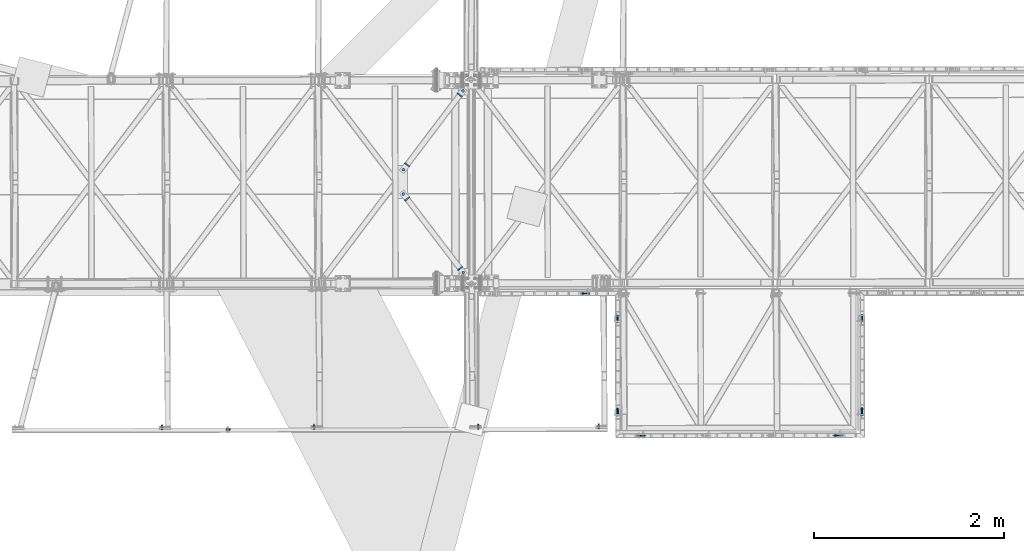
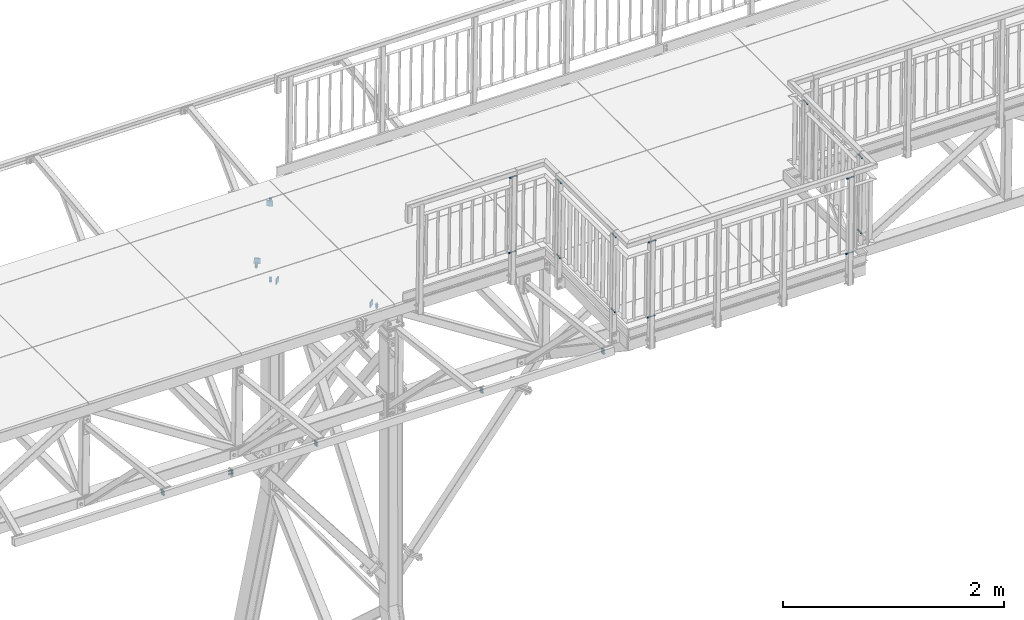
# One storey, part 164 of 169: 22 mechanical fasteners, 4 discrete accessories, 8 elements without a shape of their own.
"""IFC2X3 building model written with IfcOpenShell, lengths in millimetres."""

import ifcopenshell
import ifcopenshell.guid

model = None  # the IFC model being written
_history = None  # IfcOwnerHistory: only IFC2X3 demands one
_inside = {}  # id of a spatial element -> (the spatial element, [elements in it])
_under = {}  # id of a project, library or spatial element -> (it, [spatial elements below it])
_declared = {}  # id of a project -> (the project, [libraries it declares])
_typed = {}  # id of a type object -> (the type object, [elements of that type])
_made_of = {}  # id of a material, layer set ... -> (it, [elements and type objects made of it])


def new_model(schema):
    """Start an empty IFC model of exactly this schema.

    Asked for "IFC4X3", IfcOpenShell would pick the latest addendum, in which some entities
    have other attributes; the version numbers below select the first issue.
    IFC2X3 requires an IfcOwnerHistory on every rooted entity: one is made here for all.
    """
    global model, _history
    if schema == "IFC4X3":
        model = ifcopenshell.file(schema_version=(4, 3, 0, 0))
    else:
        model = ifcopenshell.file(schema=schema)
    _inside.clear()
    _under.clear()
    _declared.clear()
    _typed.clear()
    _made_of.clear()
    _history = None
    if model.schema == "IFC2X3":
        org = make("IfcOrganization", Name="unknown")
        user = make(
            "IfcPersonAndOrganization",
            ThePerson=make("IfcPerson", FamilyName="unknown"),
            TheOrganization=org,
        )
        app = make(
            "IfcApplication",
            ApplicationDeveloper=org,
            Version="unknown",
            ApplicationFullName="unknown",
            ApplicationIdentifier="unknown",
        )
        _history = make(
            "IfcOwnerHistory",
            OwningUser=user,
            OwningApplication=app,
            ChangeAction="ADDED",
            CreationDate=0,
        )
    return model


def make(cls, **values):
    """One entity of the class cls with the attributes given. An attribute that is None is left unset."""
    return model.create_entity(
        cls, **{name: value for name, value in values.items() if value is not None}
    )


def rooted(cls, **values):
    """An entity with a GlobalId (a new one), such as an element, a storey or a relation."""
    return make(cls, GlobalId=ifcopenshell.guid.new(), OwnerHistory=_history, **values)


def si_unit(unit_type, name, prefix=None):
    """IfcSIUnit, for example si_unit("LENGTHUNIT", "METRE", prefix="MILLI")."""
    return make("IfcSIUnit", UnitType=unit_type, Prefix=prefix, Name=name)


def assignment(units):
    """IfcUnitAssignment: the units of a project."""
    return None if units is None else make("IfcUnitAssignment", Units=units)


def point(xyz):
    """IfcCartesianPoint."""
    return None if xyz is None else make("IfcCartesianPoint", Coordinates=xyz)


def direction(xyz):
    """IfcDirection."""
    return None if xyz is None else make("IfcDirection", DirectionRatios=xyz)


def frame(location, z_axis=None, x_axis=None):
    """IfcAxis2Placement3D, a coordinate frame: its origin and axes. An axis left out is left unset."""
    return make(
        "IfcAxis2Placement3D",
        Location=point(location),
        Axis=direction(z_axis),
        RefDirection=direction(x_axis),
    )


def frame_2d(location, x_axis=None):
    """IfcAxis2Placement2D, a coordinate frame in the plane: its origin and x axis."""
    return make(
        "IfcAxis2Placement2D", Location=point(location), RefDirection=direction(x_axis)
    )


def origin_with_axes():
    """The frame at (0, 0, 0) with the z axis (0, 0, 1) and the x axis (1, 0, 0) written out."""
    return frame((0.0, 0.0, 0.0), z_axis=(0.0, 0.0, 1.0), x_axis=(1.0, 0.0, 0.0))


def origin_2d_with_axis():
    """The frame at (0, 0) in the plane with the x axis (1, 0) written out."""
    return frame_2d((0.0, 0.0), x_axis=(1.0, 0.0))


def place(relative_to, where):
    """IfcLocalPlacement: puts the frame where relative to a parent placement (None: the world)."""
    return make(
        "IfcLocalPlacement", PlacementRelTo=relative_to, RelativePlacement=where
    )


def context(
    kind, dimensions, precision=None, world=None, true_north=None, identifier=None
):
    """IfcGeometricRepresentationContext, for example the 3D "Model" context."""
    return make(
        "IfcGeometricRepresentationContext",
        ContextIdentifier=identifier,
        ContextType=kind,
        CoordinateSpaceDimension=dimensions,
        Precision=precision,
        WorldCoordinateSystem=world,
        TrueNorth=true_north,
    )


def subcontext(parent, identifier, kind, view, scale=None):
    """IfcGeometricRepresentationSubContext, for example "Body" below "Model"."""
    return make(
        "IfcGeometricRepresentationSubContext",
        ContextIdentifier=identifier,
        ContextType=kind,
        ParentContext=parent,
        TargetScale=scale,
        TargetView=view,
    )


def project(units=None, contexts=None):
    """IfcProject with its units and contexts."""
    return rooted(
        "IfcProject",
        Name="project",
        RepresentationContexts=contexts,
        UnitsInContext=assignment(units),
    )


def spatial(cls, under=None, at=None, **own):
    """A site, building, storey or space (cls), placed at a placement, below another one or the project."""
    s = rooted(cls, ObjectPlacement=at, **own)
    if under is not None:
        _under.setdefault(under.id(), (under, []))[1].append(s)
    return s


def polyline(points):
    """IfcPolyline through the points."""
    return make("IfcPolyline", Points=[point(p) for p in points])


def circle_curve(where, radius):
    """IfcCircle in the frame where."""
    return make("IfcCircle", Position=where, Radius=radius)


def parameter(value):
    """IfcParameterValue: where a trimmed curve begins or ends, as a parameter of its basis curve."""
    return model.create_entity("IfcParameterValue", value)


def trimmed(basis, trim1, trim2, sense, master):
    """IfcTrimmedCurve: the piece of a basis curve between two trims."""
    return make(
        "IfcTrimmedCurve",
        BasisCurve=basis,
        Trim1=trim1,
        Trim2=trim2,
        SenseAgreement=sense,
        MasterRepresentation=master,
    )


def segment(curve, same_sense, transition):
    """IfcCompositeCurveSegment."""
    return make(
        "IfcCompositeCurveSegment",
        Transition=transition,
        SameSense=same_sense,
        ParentCurve=curve,
    )


def composite_curve(segments, self_intersect=None):
    """IfcCompositeCurve: segments joined end to end."""
    return make("IfcCompositeCurve", Segments=segments, SelfIntersect=self_intersect)


def profile(cls, at=None, kind="AREA", **sizes):
    """A parametric profile (cls). Its sizes go by their IFC names, for example OverallWidth=200.0."""
    return make(cls, ProfileType=kind, Position=at, **sizes)


def circle(**sizes):
    """IfcCircleProfileDef."""
    return profile("IfcCircleProfileDef", **sizes)


def outline(outer, holes=None, kind="AREA"):
    """IfcArbitraryClosedProfileDef: a profile drawn as a closed curve; with holes, ...WithVoids."""
    if holes is None:
        return make("IfcArbitraryClosedProfileDef", ProfileType=kind, OuterCurve=outer)
    return make(
        "IfcArbitraryProfileDefWithVoids",
        ProfileType=kind,
        OuterCurve=outer,
        InnerCurves=holes,
    )


def extrude(swept, where, along, depth):
    """IfcExtrudedAreaSolid: the profile swept, set in the frame where, extruded along a direction by depth."""
    return make(
        "IfcExtrudedAreaSolid",
        SweptArea=swept,
        Position=where,
        ExtrudedDirection=direction(along),
        Depth=depth,
    )


def shape(context_of_items, identifier, shape_type, items):
    """IfcShapeRepresentation: the items that make up one representation, for example the "Body"."""
    return make(
        "IfcShapeRepresentation",
        ContextOfItems=context_of_items,
        RepresentationIdentifier=identifier,
        RepresentationType=shape_type,
        Items=items,
    )


def source(mapping_origin, context_of_items, identifier, shape_type, items):
    """IfcRepresentationMap: a shape defined once, which mapped items show again and again."""
    return make(
        "IfcRepresentationMap",
        MappingOrigin=mapping_origin,
        MappedRepresentation=shape(context_of_items, identifier, shape_type, items),
    )


def transform(
    local_origin,
    x_axis=None,
    y_axis=None,
    z_axis=None,
    scale=None,
    scale2=None,
    scale3=None,
    uniform=True,
):
    """IfcCartesianTransformationOperator3D, or its non-uniform kind. x_axis, y_axis, z_axis: its Axis1, 2, 3."""
    if uniform:
        return make(
            "IfcCartesianTransformationOperator3D",
            Axis1=direction(x_axis),
            Axis2=direction(y_axis),
            LocalOrigin=point(local_origin),
            Scale=scale,
            Axis3=direction(z_axis),
        )
    return make(
        "IfcCartesianTransformationOperator3DnonUniform",
        Axis1=direction(x_axis),
        Axis2=direction(y_axis),
        LocalOrigin=point(local_origin),
        Scale=scale,
        Axis3=direction(z_axis),
        Scale2=scale2,
        Scale3=scale3,
    )


def mapped(mapping_source, mapping_target):
    """IfcMappedItem: shows the shape of a source again, moved by a transform."""
    return make(
        "IfcMappedItem", MappingSource=mapping_source, MappingTarget=mapping_target
    )


def material(Name=None, Category=None):
    """IfcMaterial."""
    return make("IfcMaterial", Name=Name, Category=Category)


def made_of(thing, what):
    """Note that an element or type object is made of a material, layer set ...; save() writes the relation."""
    if what is not None:
        _made_of.setdefault(what.id(), (what, []))[1].append(thing)
    return thing


def type_object(cls, material=None, **own):
    """A type object (cls), such as IfcWallType, which elements share."""
    return made_of(rooted(cls, **own), material)


def element(
    cls,
    number,
    at=None,
    inside=None,
    cuts=None,
    type_object=None,
    material=None,
    context=None,
    identifier="Body",
    shape_type=None,
    held_by="IfcProductDefinitionShape",
    body=None,
    shapes=None,
    **own,
):
    """One element of the class cls, such as IfcWall. Its Tag is "e" and its number.

    at: its placement. inside: the storey or other place that contains it. cuts: it is an
    opening in that element (IfcRelVoidsElement). A single representation is given by context,
    identifier, shape_type and body (its items); several are given by shapes. held_by: the class
    of the entity that holds the representations. save() writes the other relations.
    """
    e = rooted(cls, Tag="e%d" % number, ObjectPlacement=at, **own)
    if body is not None:
        shapes = [shape(context, identifier, shape_type, body)]
    if shapes is not None:
        e.Representation = make(held_by, Representations=shapes)
    if inside is not None:
        _inside.setdefault(inside.id(), (inside, []))[1].append(e)
    if cuts is not None:
        rooted(
            "IfcRelVoidsElement", RelatingBuildingElement=cuts, RelatedOpeningElement=e
        )
    if type_object is not None:
        _typed.setdefault(type_object.id(), (type_object, []))[1].append(e)
    return made_of(e, material)


def aggregate(whole, parts):
    """IfcRelAggregates: a whole, such as a stair, and the parts it consists of."""
    return rooted("IfcRelAggregates", RelatingObject=whole, RelatedObjects=parts)


def save(model, path):
    """Write the relations noted so far, then the file.

    IfcRelAggregates (storeys below a building ...), IfcRelContainedInSpatialStructure (elements
    in a storey), IfcRelDefinesByType, IfcRelAssociatesMaterial and IfcRelDeclares: one each for
    every whole, place, type object, material and project.
    """
    for whole, parts in _under.values():
        aggregate(whole, parts)
    for where, things in _inside.values():
        rooted(
            "IfcRelContainedInSpatialStructure",
            RelatedElements=things,
            RelatingStructure=where,
        )
    for kind, things in _typed.values():
        rooted("IfcRelDefinesByType", RelatedObjects=things, RelatingType=kind)
    for what, things in _made_of.values():
        rooted("IfcRelAssociatesMaterial", RelatedObjects=things, RelatingMaterial=what)
    for by, libraries in _declared.values():
        rooted("IfcRelDeclares", RelatingContext=by, RelatedDefinitions=libraries)
    model.write(path)


model = new_model("IFC2X3")

# Units and contexts
model_context = context("Model", 3, precision=1e-05, world=origin_with_axes())
body_context = subcontext(model_context, "Body", "Model", "MODEL_VIEW")
ifc_project = project(units=[si_unit("LENGTHUNIT", "METRE", prefix="MILLI"), si_unit("AREAUNIT", "SQUARE_METRE"), si_unit("VOLUMEUNIT", "CUBIC_METRE"), si_unit("MASSUNIT", "GRAM", prefix="KILO"), si_unit("TIMEUNIT", "SECOND"), si_unit("PLANEANGLEUNIT", "RADIAN"), si_unit("SOLIDANGLEUNIT", "STERADIAN"), si_unit("THERMODYNAMICTEMPERATUREUNIT", "DEGREE_CELSIUS"), si_unit("LUMINOUSINTENSITYUNIT", "LUMEN")], contexts=[model_context])

# Site, building, storey
site_placement = place(None, origin_with_axes())
site = spatial("IfcSite", under=ifc_project, at=site_placement, Name="Undefined", CompositionType="ELEMENT")
building_placement = place(site_placement, origin_with_axes())
building = spatial("IfcBuilding", under=site, at=building_placement, Name="Undefined", CompositionType="ELEMENT")
storey_placement = place(building_placement, origin_with_axes())
storey = spatial("IfcBuildingStorey", under=building, at=storey_placement, Name="Undefined", CompositionType="ELEMENT", Elevation=0.0)

# Assembly, mechanical fastener
assembly_1_placement = place(storey_placement, origin_with_axes())
assembly_1 = element("IfcElementAssembly", 1, at=assembly_1_placement, inside=storey, Name="Steel Assembly", AssemblyPlace="NOTDEFINED", PredefinedType="RIGID_FRAME")
ifc_material_1 = material(Name="Undefined")
discrete_accessory_type_1 = type_object("IfcDiscreteAccessoryType", Name="Bolt assembly")
shared_shape_1 = source(origin_with_axes(), body_context, "Body", "SweptSolid", [
    extrude(circle(Radius=7.5, at=origin_2d_with_axis()), frame((0.0, -9.90000000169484, 0.0), z_axis=(0.0, 1.0, 0.0), x_axis=(1.0, 0.0, 0.0)), (0.0, 0.0, 1.0), 10.0),
    extrude(circle(Radius=7.5, at=origin_2d_with_axis()), frame((0.0, -0.100000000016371, 0.0), z_axis=(0.0, 1.0, 0.0), x_axis=(1.0, 0.0, 0.0)), (0.0, 0.0, 1.0), 10.1),
    extrude(outline(polyline([(10.39230484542, 0.0), (5.19615242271, 9.00000000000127), (-5.19615242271, 9.00000000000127), (-10.39230484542, 0.0), (-5.19615242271, -9.00000000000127), (5.19615242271, -9.00000000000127), (10.39230484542, 0.0)])), frame((0.0, -20.0000000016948, 0.0), z_axis=(0.0, 1.0, 0.0), x_axis=(1.0, 0.0, 0.0)), (0.0, 0.0, 1.0), 7.5),
    extrude(circle(Radius=6.0, at=origin_2d_with_axis()), frame((0.0, -12.5000000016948, 0.0), z_axis=(0.0, 1.0, 0.0), x_axis=(1.0, 0.0, 0.0)), (0.0, 0.0, 1.0), 40.0),
    extrude(circle(Radius=12.0, at=origin_2d_with_axis()), frame((0.0, -12.5000000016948, 0.0), z_axis=(0.0, 1.0, 0.0), x_axis=(1.0, 0.0, 0.0)), (0.0, 0.0, 1.0), 2.5),
    extrude(circle(Radius=12.0, at=origin_2d_with_axis()), frame((0.0, 9.99999999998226, 0.0), z_axis=(0.0, 1.0, 0.0), x_axis=(1.0, 0.0, 0.0)), (0.0, 0.0, 1.0), 2.5),
    extrude(outline(polyline([(10.96965511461, 0.0), (5.484827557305, 9.50000000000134), (-5.484827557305, 9.50000000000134), (-10.96965511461, 0.0), (-5.484827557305, -9.50000000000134), (5.484827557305, -9.50000000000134), (10.96965511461, 0.0)])), frame((0.0, 12.4999999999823, 0.0), z_axis=(0.0, 1.0, 0.0), x_axis=(1.0, 0.0, 0.0)), (0.0, 0.0, 1.0), 10.0),
])
mechanical_fastener_1_placement = place(assembly_1_placement, frame((3556.32930027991, -1428.97701817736, 13941.7508409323), z_axis=(0.00334696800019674, -0.99305658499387, 0.117590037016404), x_axis=(-0.0124056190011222, -0.117622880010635, -0.992980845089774)))
mechanical_fastener_1 = element("IfcMechanicalFastener", 2, at=mechanical_fastener_1_placement, type_object=discrete_accessory_type_1, material=ifc_material_1, Name="Bolt assembly", NominalDiameter=12.0, NominalLength=40.0, context=body_context, shape_type="MappedRepresentation", body=[
    mapped(shared_shape_1, transform((25.0000000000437, -9.09494701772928e-13, -9.99999999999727))),
    mapped(shared_shape_1, transform((55.0000000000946, -9.09494701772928e-13, -9.99999999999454))),
])
aggregate(assembly_1, [mechanical_fastener_1])

# Assembly, discrete accessories
assembly_2_placement = place(storey_placement, origin_with_axes())
assembly_2 = element("IfcElementAssembly", 3, at=assembly_2_placement, inside=storey, Name="Steel Assembly", AssemblyPlace="NOTDEFINED", PredefinedType="RIGID_FRAME")
ifc_material_2 = material(Name="STEEL/S235")
discrete_accessory_type_2 = type_object("IfcDiscreteAccessoryType", Name="BLACHA")
discrete_accessory_1_placement = place(assembly_2_placement, frame((6000.50302998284, 2100.36412309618, 13847.9313782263), z_axis=(-0.603048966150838, -0.797667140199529, 0.00768621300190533), x_axis=(0.012713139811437, 2.3750999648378e-05, 0.999919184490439)))
discrete_accessory_1 = element("IfcDiscreteAccessory", 4, at=discrete_accessory_1_placement, type_object=discrete_accessory_type_2, material=ifc_material_2, Name="BLACHA", ObjectType="BL10*60", context=body_context, shape_type="SweptSolid", body=[
    extrude(outline(polyline([(-1.63709046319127e-10, 30.0000000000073), (60.0000000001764, 30.0000000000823), (60.0000000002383, -29.9999999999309), (1.63709046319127e-10, -30.0000000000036), (-1.63709046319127e-10, 30.0000000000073)])), frame((-1.81898926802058e-12, -1.18000176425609e-16, -5.00000000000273), z_axis=(0.0, 0.0, 1.0), x_axis=(1.0, 0.0, 0.0)), (0.0, 0.0, 1.0), 10.0),
])
discrete_accessory_2_placement = place(assembly_2_placement, frame((5444.76188841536, 1365.27216216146, 13855.0146252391), z_axis=(0.603048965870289, 0.797667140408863, -0.00768621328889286), x_axis=(0.012713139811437, 2.3750999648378e-05, 0.999919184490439)))
discrete_accessory_2 = element("IfcDiscreteAccessory", 5, at=discrete_accessory_2_placement, type_object=discrete_accessory_type_2, material=ifc_material_2, Name="BLACHA", ObjectType="BL10*60", context=body_context, shape_type="SweptSolid", body=[
    extrude(outline(polyline([(1.63709046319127e-10, -30.0000000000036), (-1.63709046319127e-10, 30.0000000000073), (60.0000000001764, 30.0000000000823), (60.0000000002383, -29.9999999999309), (1.63709046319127e-10, -30.0000000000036)])), frame((-1.81898926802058e-12, -1.18000176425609e-16, -5.00000000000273), z_axis=(0.0, 0.0, 1.0), x_axis=(1.0, 0.0, 0.0)), (0.0, 0.0, 1.0), 10.0),
])

assembly_3_placement = place(storey_placement, origin_with_axes())
assembly_3 = element("IfcElementAssembly", 6, at=assembly_3_placement, inside=storey, Name="Steel Assembly", AssemblyPlace="NOTDEFINED", PredefinedType="RIGID_FRAME")
discrete_accessory_3_placement = place(assembly_3_placement, frame((5445.43361702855, 1005.06865640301, 13855.0146408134), z_axis=(0.606019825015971, -0.795412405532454, -0.00768614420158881), x_axis=(0.012713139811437, 2.3750999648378e-05, 0.999919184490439)))
discrete_accessory_3 = element("IfcDiscreteAccessory", 7, at=discrete_accessory_3_placement, type_object=discrete_accessory_type_2, material=ifc_material_2, Name="BLACHA", ObjectType="BL10*60", context=body_context, shape_type="SweptSolid", body=[
    extrude(outline(polyline([(-1.63709046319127e-10, 30.0000000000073), (60.0000000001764, 30.0000000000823), (60.0000000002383, -29.9999999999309), (1.63709046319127e-10, -30.0000000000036), (-1.63709046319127e-10, 30.0000000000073)])), frame((-1.81898926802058e-12, -1.18000176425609e-16, -5.00000000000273), z_axis=(0.0, 0.0, 1.0), x_axis=(1.0, 0.0, 0.0)), (0.0, 0.0, 1.0), 10.0),
])
discrete_accessory_4_placement = place(assembly_3_placement, frame((6003.91271283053, 272.054350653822, 13847.931455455), z_axis=(-0.606019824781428, 0.795412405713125, 0.00768614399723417), x_axis=(0.012713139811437, 2.3750999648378e-05, 0.999919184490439)))
discrete_accessory_4 = element("IfcDiscreteAccessory", 8, at=discrete_accessory_4_placement, type_object=discrete_accessory_type_2, material=ifc_material_2, Name="BLACHA", ObjectType="BL10*60", context=body_context, shape_type="SweptSolid", body=[
    extrude(outline(polyline([(1.63709046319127e-10, -30.0000000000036), (-1.63709046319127e-10, 30.0000000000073), (60.0000000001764, 30.0000000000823), (60.0000000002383, -29.9999999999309), (1.63709046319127e-10, -30.0000000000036)])), frame((-1.81898926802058e-12, -1.18000176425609e-16, -5.00000000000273), z_axis=(0.0, 0.0, 1.0), x_axis=(1.0, 0.0, 0.0)), (0.0, 0.0, 1.0), 10.0),
])

# Assembly, mechanical fastener
assembly_4_placement = place(storey_placement, origin_with_axes())
assembly_4 = element("IfcElementAssembly", 9, at=assembly_4_placement, inside=storey, Name="Steel Assembly", AssemblyPlace="NOTDEFINED", PredefinedType="RIGID_FRAME")
shared_shape_2 = source(origin_with_axes(), body_context, "Body", "SweptSolid", [
    extrude(circle(Radius=7.5, at=origin_2d_with_axis()), frame((0.0, -10.3999999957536, 0.0), z_axis=(0.0, 1.0, 0.0), x_axis=(1.0, 0.0, 0.0)), (0.0, 0.0, 1.0), 10.0),
    extrude(outline(composite_curve([segment(polyline([(7.5, 7.5), (7.5, -7.5)]), True, "CONTINUOUS"), segment(trimmed(circle_curve(frame_2d((0.0, -7.5), x_axis=(1.0, 0.0)), 7.5), [parameter(0.0)], [parameter(3.14159265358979)], False, "PARAMETER"), True, "CONTINUOUS"), segment(polyline([(-7.5, -7.5), (-7.5, 7.5)]), True, "CONTINUOUS"), segment(trimmed(circle_curve(frame_2d((0.0, 7.5), x_axis=(-1.0, 0.0)), 7.5), [parameter(0.0)], [parameter(3.14159265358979)], False, "PARAMETER"), True, "DISCONTINUOUS")], self_intersect=False)), frame((0.0, 0.400000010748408, 0.0), z_axis=(0.0, 1.0, 0.0), x_axis=(1.0, 0.0, 0.0)), (0.0, 0.0, 1.0), 10.1),
    extrude(outline(polyline([(10.39230484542, 0.0), (5.19615242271, 9.00000000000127), (-5.19615242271, 9.00000000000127), (-10.39230484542, 0.0), (-5.19615242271, -9.00000000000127), (5.19615242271, -9.00000000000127), (10.39230484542, 0.0)])), frame((0.0, -20.9999999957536, 0.0), z_axis=(0.0, 1.0, 0.0), x_axis=(1.0, 0.0, 0.0)), (0.0, 0.0, 1.0), 7.5),
    extrude(circle(Radius=6.0, at=origin_2d_with_axis()), frame((0.0, -13.4999999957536, 0.0), z_axis=(0.0, 1.0, 0.0), x_axis=(1.0, 0.0, 0.0)), (0.0, 0.0, 1.0), 45.0),
    extrude(circle(Radius=12.0, at=origin_2d_with_axis()), frame((0.0, -13.4999999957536, 0.0), z_axis=(0.0, 1.0, 0.0), x_axis=(1.0, 0.0, 0.0)), (0.0, 0.0, 1.0), 3.0),
    extrude(circle(Radius=12.0, at=origin_2d_with_axis()), frame((0.0, 10.500000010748, 0.0), z_axis=(0.0, 1.0, 0.0), x_axis=(1.0, 0.0, 0.0)), (0.0, 0.0, 1.0), 3.0),
    extrude(outline(polyline([(10.96965511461, 0.0), (5.484827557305, 9.50000000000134), (-5.484827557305, 9.50000000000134), (-10.96965511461, 0.0), (-5.484827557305, -9.50000000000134), (5.484827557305, -9.50000000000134), (10.96965511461, 0.0)])), frame((0.0, 13.500000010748, 0.0), z_axis=(0.0, 1.0, 0.0), x_axis=(1.0, 0.0, 0.0)), (0.0, 0.0, 1.0), 10.0),
])
mechanical_fastener_2_placement = place(assembly_4_placement, frame((2922.6622331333, -1405.74242971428, 13896.6183931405), z_axis=(-0.999917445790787, -0.00186469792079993, 0.0127131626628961), x_axis=(0.0124058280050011, 0.117560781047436, 0.992988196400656)))
mechanical_fastener_2 = element("IfcMechanicalFastener", 10, at=mechanical_fastener_2_placement, type_object=discrete_accessory_type_1, material=ifc_material_1, Name="Bolt assembly", NominalDiameter=12.0, NominalLength=45.0, context=body_context, shape_type="MappedRepresentation", body=[
    mapped(shared_shape_2, transform((-4.9999999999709, -9.09494701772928e-12, 60.0000000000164))),
    mapped(shared_shape_2, transform((24.9999999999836, -3.54702933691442e-11, 60.0000000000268))),
])
aggregate(assembly_4, [mechanical_fastener_2])

# Assembly, mechanical fasteners
assembly_5_placement = place(storey_placement, origin_with_axes())
assembly_5 = element("IfcElementAssembly", 11, at=assembly_5_placement, inside=storey, Name="Steel Assembly", AssemblyPlace="NOTDEFINED", PredefinedType="RIGID_FRAME")
shared_shape_3 = source(origin_with_axes(), body_context, "Body", "SweptSolid", [
    extrude(circle(Radius=6.5, at=origin_2d_with_axis()), frame((0.0, 4.89999999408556, 0.0), z_axis=(0.0, 1.0, 0.0), x_axis=(1.0, 0.0, 0.0)), (0.0, 0.0, 1.0), 50.1),
    extrude(circle(Radius=6.5, at=origin_2d_with_axis()), frame((0.0, 0.100000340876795, 0.0), z_axis=(0.0, 1.0, 0.0), x_axis=(1.0, 0.0, 0.0)), (0.0, 0.0, 1.0), 5.0),
    extrude(outline(polyline([(8.66025403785, 0.0), (4.330127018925, 7.50000000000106), (-4.330127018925, 7.50000000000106), (-8.66025403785, 0.0), (-4.330127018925, -7.50000000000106), (4.330127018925, -7.50000000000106), (8.66025403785, 0.0)])), frame((0.0, -8.39999975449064, 0.0), z_axis=(0.0, 1.0, 0.0), x_axis=(1.0, 0.0, 0.0)), (0.0, 0.0, 1.0), 6.4),
    extrude(circle(Radius=5.0, at=origin_2d_with_axis()), frame((0.0, -1.9999996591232, 0.0), z_axis=(0.0, 1.0, 0.0), x_axis=(1.0, 0.0, 0.0)), (0.0, 0.0, 1.0), 75.0),
    extrude(circle(Radius=10.0, at=origin_2d_with_axis()), frame((0.0, -1.9999996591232, 0.0), z_axis=(0.0, 1.0, 0.0), x_axis=(1.0, 0.0, 0.0)), (0.0, 0.0, 1.0), 2.0),
    extrude(circle(Radius=10.0, at=origin_2d_with_axis()), frame((0.0, 54.9999999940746, 0.0), z_axis=(0.0, 1.0, 0.0), x_axis=(1.0, 0.0, 0.0)), (0.0, 0.0, 1.0), 2.0),
    extrude(outline(polyline([(9.81495457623, 0.0), (4.907477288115, 8.5000000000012), (-4.907477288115, 8.5000000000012), (-9.81495457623, 0.0), (-4.907477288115, -8.5000000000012), (4.907477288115, -8.5000000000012), (9.81495457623, 0.0)])), frame((0.0, 56.999999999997, 0.0), z_axis=(0.0, 1.0, 0.0), x_axis=(1.0, 0.0, 0.0)), (0.0, 0.0, 1.0), 8.0),
])
mechanical_fastener_3_placement = place(assembly_5_placement, frame((7669.40624709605, -1270.68591546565, 14966.8849856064), z_axis=(0.012713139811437, 2.3750999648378e-05, 0.999919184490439), x_axis=(0.9999174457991, 0.00186469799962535, -0.0127131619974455)))
mechanical_fastener_3 = element("IfcMechanicalFastener", 12, at=mechanical_fastener_3_placement, type_object=discrete_accessory_type_1, material=ifc_material_1, Name="Bolt assembly", NominalDiameter=10.0, NominalLength=75.0, context=body_context, shape_type="MappedRepresentation", body=[
    mapped(shared_shape_3, transform((0.0, 0.0, 0.0))),
])
mechanical_fastener_4_placement = place(assembly_5_placement, frame((7658.90519377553, -1270.70553347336, 14140.9517392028), z_axis=(0.012713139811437, 2.3750999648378e-05, 0.999919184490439), x_axis=(0.9999174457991, 0.00186469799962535, -0.0127131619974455)))
mechanical_fastener_4 = element("IfcMechanicalFastener", 13, at=mechanical_fastener_4_placement, type_object=discrete_accessory_type_1, material=ifc_material_1, Name="Bolt assembly", NominalDiameter=10.0, NominalLength=75.0, context=body_context, shape_type="MappedRepresentation", body=[
    mapped(shared_shape_3, transform((0.0, 0.0, 0.0))),
])
mechanical_fastener_5_placement = place(assembly_5_placement, frame((7889.79835696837, -1490.27530067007, 14964.088099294), z_axis=(-0.012713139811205, -2.37511238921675e-05, -0.999919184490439), x_axis=(-0.0018648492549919, 0.999998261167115, -4.2996762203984e-08)))
mechanical_fastener_5 = element("IfcMechanicalFastener", 14, at=mechanical_fastener_5_placement, type_object=discrete_accessory_type_1, material=ifc_material_1, Name="Bolt assembly", NominalDiameter=10.0, NominalLength=75.0, context=body_context, shape_type="MappedRepresentation", body=[
    mapped(shared_shape_3, transform((0.0, 0.0, 0.0))),
])
mechanical_fastener_6_placement = place(assembly_5_placement, frame((7879.29730420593, -1490.29491899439, 14138.1548528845), z_axis=(-0.012713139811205, -2.37511238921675e-05, -0.999919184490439), x_axis=(-0.0018648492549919, 0.999998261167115, -4.2996762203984e-08)))
mechanical_fastener_6 = element("IfcMechanicalFastener", 15, at=mechanical_fastener_6_placement, type_object=discrete_accessory_type_1, material=ifc_material_1, Name="Bolt assembly", NominalDiameter=10.0, NominalLength=75.0, context=body_context, shape_type="MappedRepresentation", body=[
    mapped(shared_shape_3, transform((0.0, 0.0, 0.0))),
])
mechanical_fastener_7_placement = place(assembly_5_placement, frame((7667.45747960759, -225.687735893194, 14966.8849407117), z_axis=(-0.012713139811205, -2.37511238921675e-05, -0.999919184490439), x_axis=(0.9999174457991, 0.00186469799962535, -0.0127131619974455)))
mechanical_fastener_7 = element("IfcMechanicalFastener", 16, at=mechanical_fastener_7_placement, type_object=discrete_accessory_type_1, material=ifc_material_1, Name="Bolt assembly", NominalDiameter=10.0, NominalLength=75.0, context=body_context, shape_type="MappedRepresentation", body=[
    mapped(shared_shape_3, transform((0.0, 0.0, 0.0))),
])
mechanical_fastener_8_placement = place(assembly_5_placement, frame((7656.95642628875, -225.707354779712, 14140.9516943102), z_axis=(-0.012713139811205, -2.37511238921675e-05, -0.999919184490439), x_axis=(0.9999174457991, 0.00186469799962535, -0.0127131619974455)))
mechanical_fastener_8 = element("IfcMechanicalFastener", 17, at=mechanical_fastener_8_placement, type_object=discrete_accessory_type_1, material=ifc_material_1, Name="Bolt assembly", NominalDiameter=10.0, NominalLength=75.0, context=body_context, shape_type="MappedRepresentation", body=[
    mapped(shared_shape_3, transform((0.0, 0.0, 0.0))),
])
mechanical_fastener_9_placement = place(assembly_5_placement, frame((7366.23863086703, 8.75094603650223, 14970.7091191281), z_axis=(0.012713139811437, 2.3750999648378e-05, 0.999919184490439), x_axis=(-0.0018648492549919, 0.999998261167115, -4.2996762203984e-08)))
mechanical_fastener_9 = element("IfcMechanicalFastener", 18, at=mechanical_fastener_9_placement, type_object=discrete_accessory_type_1, material=ifc_material_1, Name="Bolt assembly", NominalDiameter=10.0, NominalLength=75.0, context=body_context, shape_type="MappedRepresentation", body=[
    mapped(shared_shape_3, transform((0.0, 0.0, 0.0))),
])
mechanical_fastener_10_placement = place(assembly_5_placement, frame((7355.737577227, 8.73132771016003, 14144.775872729), z_axis=(0.012713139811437, 2.3750999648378e-05, 0.999919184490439), x_axis=(-0.0018648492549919, 0.999998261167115, -4.2996762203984e-08)))
mechanical_fastener_10 = element("IfcMechanicalFastener", 19, at=mechanical_fastener_10_placement, type_object=discrete_accessory_type_1, material=ifc_material_1, Name="Bolt assembly", NominalDiameter=10.0, NominalLength=75.0, context=body_context, shape_type="MappedRepresentation", body=[
    mapped(shared_shape_3, transform((0.0, 0.0, 0.0))),
])
mechanical_fastener_11_placement = place(assembly_5_placement, frame((10244.1938676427, -1265.8843177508, 14934.1485909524), z_axis=(-0.012713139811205, -2.37511238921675e-05, -0.999919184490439), x_axis=(-0.999917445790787, -0.00186469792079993, 0.0127131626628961)))
mechanical_fastener_11 = element("IfcMechanicalFastener", 20, at=mechanical_fastener_11_placement, type_object=discrete_accessory_type_1, material=ifc_material_1, Name="Bolt assembly", NominalDiameter=10.0, NominalLength=75.0, context=body_context, shape_type="MappedRepresentation", body=[
    mapped(shared_shape_3, transform((0.0, 0.0, 0.0))),
])
mechanical_fastener_12_placement = place(assembly_5_placement, frame((10233.6928139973, -1265.90393575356, 14108.2153445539), z_axis=(-0.012713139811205, -2.37511238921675e-05, -0.999919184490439), x_axis=(-0.999917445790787, -0.00186469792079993, 0.0127131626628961)))
mechanical_fastener_12 = element("IfcMechanicalFastener", 21, at=mechanical_fastener_12_placement, type_object=discrete_accessory_type_1, material=ifc_material_1, Name="Bolt assembly", NominalDiameter=10.0, NominalLength=75.0, context=body_context, shape_type="MappedRepresentation", body=[
    mapped(shared_shape_3, transform((0.0, 0.0, 0.0))),
])
mechanical_fastener_13_placement = place(assembly_5_placement, frame((10024.6222914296, -1486.2941700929, 14936.9454960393), z_axis=(0.012713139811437, 2.3750999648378e-05, 0.999919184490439), x_axis=(-0.0018648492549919, 0.999998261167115, -4.2996762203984e-08)))
mechanical_fastener_13 = element("IfcMechanicalFastener", 22, at=mechanical_fastener_13_placement, type_object=discrete_accessory_type_1, material=ifc_material_1, Name="Bolt assembly", NominalDiameter=10.0, NominalLength=75.0, context=body_context, shape_type="MappedRepresentation", body=[
    mapped(shared_shape_3, transform((0.0, 0.0, 0.0))),
])
mechanical_fastener_14_placement = place(assembly_5_placement, frame((10014.1212372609, -1486.3137884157, 14111.0122496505), z_axis=(0.012713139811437, 2.3750999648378e-05, 0.999919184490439), x_axis=(-0.0018648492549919, 0.999998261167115, -4.2996762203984e-08)))
mechanical_fastener_14 = element("IfcMechanicalFastener", 23, at=mechanical_fastener_14_placement, type_object=discrete_accessory_type_1, material=ifc_material_1, Name="Bolt assembly", NominalDiameter=10.0, NominalLength=75.0, context=body_context, shape_type="MappedRepresentation", body=[
    mapped(shared_shape_3, transform((0.0, 0.0, 0.0))),
])
mechanical_fastener_15_placement = place(assembly_5_placement, frame((10242.245100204, -220.886138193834, 14934.1485460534), z_axis=(0.012713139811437, 2.3750999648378e-05, 0.999919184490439), x_axis=(-0.999917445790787, -0.00186469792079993, 0.0127131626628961)))
mechanical_fastener_15 = element("IfcMechanicalFastener", 24, at=mechanical_fastener_15_placement, type_object=discrete_accessory_type_1, material=ifc_material_1, Name="Bolt assembly", NominalDiameter=10.0, NominalLength=75.0, context=body_context, shape_type="MappedRepresentation", body=[
    mapped(shared_shape_3, transform((0.0, 0.0, 0.0))),
])
aggregate(assembly_5, [mechanical_fastener_3, mechanical_fastener_4, mechanical_fastener_5, mechanical_fastener_6, mechanical_fastener_7, mechanical_fastener_8, mechanical_fastener_9, mechanical_fastener_10, mechanical_fastener_11, mechanical_fastener_12, mechanical_fastener_13, mechanical_fastener_14, mechanical_fastener_15])

# Assembly, mechanical fastener
assembly_6_placement = place(storey_placement, origin_with_axes())
assembly_6 = element("IfcElementAssembly", 25, at=assembly_6_placement, inside=storey, Name="Steel Assembly", AssemblyPlace="NOTDEFINED", PredefinedType="RIGID_FRAME")
shared_shape_4 = source(origin_with_axes(), body_context, "Body", "SweptSolid", [
    extrude(circle(Radius=7.5, at=origin_2d_with_axis()), frame((0.0, -10.3999999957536, 0.0), z_axis=(0.0, 1.0, 0.0), x_axis=(1.0, 0.0, 0.0)), (0.0, 0.0, 1.0), 10.0),
    extrude(outline(composite_curve([segment(polyline([(7.5, 7.5), (7.5, -7.5)]), True, "CONTINUOUS"), segment(trimmed(circle_curve(frame_2d((0.0, -7.5), x_axis=(1.0, 0.0)), 7.5), [parameter(0.0)], [parameter(3.14159265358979)], False, "PARAMETER"), True, "CONTINUOUS"), segment(polyline([(-7.5, -7.5), (-7.5, 7.5)]), True, "CONTINUOUS"), segment(trimmed(circle_curve(frame_2d((0.0, 7.5), x_axis=(-1.0, 0.0)), 7.5), [parameter(0.0)], [parameter(3.14159265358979)], False, "PARAMETER"), True, "DISCONTINUOUS")], self_intersect=False)), frame((0.0, 0.400000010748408, 0.0), z_axis=(0.0, 1.0, 0.0), x_axis=(1.0, 0.0, 0.0)), (0.0, 0.0, 1.0), 10.1),
    extrude(outline(polyline([(10.39230484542, 0.0), (5.19615242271, 9.00000000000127), (-5.19615242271, 9.00000000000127), (-10.39230484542, 0.0), (-5.19615242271, -9.00000000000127), (5.19615242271, -9.00000000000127), (10.39230484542, 0.0)])), frame((0.0, -20.9999999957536, 0.0), z_axis=(0.0, 1.0, 0.0), x_axis=(1.0, 0.0, 0.0)), (0.0, 0.0, 1.0), 7.5),
    extrude(circle(Radius=6.0, at=origin_2d_with_axis()), frame((0.0, -13.4999999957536, 0.0), z_axis=(0.0, 1.0, 0.0), x_axis=(1.0, 0.0, 0.0)), (0.0, 0.0, 1.0), 45.0),
    extrude(circle(Radius=12.0, at=origin_2d_with_axis()), frame((0.0, -13.4999999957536, 0.0), z_axis=(0.0, 1.0, 0.0), x_axis=(1.0, 0.0, 0.0)), (0.0, 0.0, 1.0), 3.0),
    extrude(circle(Radius=12.0, at=origin_2d_with_axis()), frame((0.0, 10.500000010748, 0.0), z_axis=(0.0, 1.0, 0.0), x_axis=(1.0, 0.0, 0.0)), (0.0, 0.0, 1.0), 3.0),
    extrude(outline(polyline([(10.96965511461, 0.0), (5.484827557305, 9.50000000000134), (-5.484827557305, 9.50000000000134), (-10.96965511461, 0.0), (-5.484827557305, -9.50000000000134), (5.484827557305, -9.50000000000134), (10.96965511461, 0.0)])), frame((0.0, 13.500000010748, 0.0), z_axis=(0.0, 1.0, 0.0), x_axis=(1.0, 0.0, 0.0)), (0.0, 0.0, 1.0), 10.0),
])
mechanical_fastener_16_placement = place(assembly_6_placement, frame((6135.65742003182, -1392.68921531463, 13915.4128323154), z_axis=(0.9999174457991, 0.00186469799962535, -0.0127131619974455), x_axis=(-0.0124056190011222, -0.117622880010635, -0.992980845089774)))
mechanical_fastener_16 = element("IfcMechanicalFastener", 26, at=mechanical_fastener_16_placement, type_object=discrete_accessory_type_1, material=ifc_material_1, Name="Bolt assembly", NominalDiameter=12.0, NominalLength=45.0, context=body_context, shape_type="MappedRepresentation", body=[
    mapped(shared_shape_4, transform((35.0000000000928, 4.54747350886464e-11, 60.0000000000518))),
    mapped(shared_shape_4, transform((65.0000000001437, 6.18456397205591e-11, 60.0000000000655))),
])
aggregate(assembly_6, [mechanical_fastener_16])

assembly_7_placement = place(storey_placement, origin_with_axes())
assembly_7 = element("IfcElementAssembly", 27, at=assembly_7_placement, inside=storey, Name="Steel Assembly", AssemblyPlace="NOTDEFINED", PredefinedType="RIGID_FRAME")
shared_shape_5 = source(origin_with_axes(), body_context, "Body", "SweptSolid", [
    extrude(circle(Radius=7.5, at=origin_2d_with_axis()), frame((0.0, -10.3999999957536, 0.0), z_axis=(0.0, 1.0, 0.0), x_axis=(1.0, 0.0, 0.0)), (0.0, 0.0, 1.0), 10.0),
    extrude(outline(composite_curve([segment(polyline([(7.5, 7.5), (7.5, -7.5)]), True, "CONTINUOUS"), segment(trimmed(circle_curve(frame_2d((0.0, -7.5), x_axis=(1.0, 0.0)), 7.5), [parameter(0.0)], [parameter(3.14159265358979)], False, "PARAMETER"), True, "CONTINUOUS"), segment(polyline([(-7.5, -7.5), (-7.5, 7.5)]), True, "CONTINUOUS"), segment(trimmed(circle_curve(frame_2d((0.0, 7.5), x_axis=(-1.0, 0.0)), 7.5), [parameter(0.0)], [parameter(3.14159265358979)], False, "PARAMETER"), True, "DISCONTINUOUS")], self_intersect=False)), frame((0.0, 0.400000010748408, 0.0), z_axis=(0.0, 1.0, 0.0), x_axis=(1.0, 0.0, 0.0)), (0.0, 0.0, 1.0), 10.1),
    extrude(outline(polyline([(10.39230484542, 0.0), (5.19615242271, 9.00000000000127), (-5.19615242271, 9.00000000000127), (-10.39230484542, 0.0), (-5.19615242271, -9.00000000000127), (5.19615242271, -9.00000000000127), (10.39230484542, 0.0)])), frame((0.0, -20.9999999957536, 0.0), z_axis=(0.0, 1.0, 0.0), x_axis=(1.0, 0.0, 0.0)), (0.0, 0.0, 1.0), 7.5),
    extrude(circle(Radius=6.0, at=origin_2d_with_axis()), frame((0.0, -13.4999999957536, 0.0), z_axis=(0.0, 1.0, 0.0), x_axis=(1.0, 0.0, 0.0)), (0.0, 0.0, 1.0), 45.0),
    extrude(circle(Radius=12.0, at=origin_2d_with_axis()), frame((0.0, -13.4999999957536, 0.0), z_axis=(0.0, 1.0, 0.0), x_axis=(1.0, 0.0, 0.0)), (0.0, 0.0, 1.0), 3.0),
    extrude(circle(Radius=12.0, at=origin_2d_with_axis()), frame((0.0, 10.500000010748, 0.0), z_axis=(0.0, 1.0, 0.0), x_axis=(1.0, 0.0, 0.0)), (0.0, 0.0, 1.0), 3.0),
    extrude(outline(polyline([(10.96965511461, 0.0), (5.484827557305, 9.50000000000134), (-5.484827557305, 9.50000000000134), (-10.96965511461, 0.0), (-5.484827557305, -9.50000000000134), (5.484827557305, -9.50000000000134), (10.96965511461, 0.0)])), frame((0.0, 13.500000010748, 0.0), z_axis=(0.0, 1.0, 0.0), x_axis=(1.0, 0.0, 0.0)), (0.0, 0.0, 1.0), 10.0),
])
mechanical_fastener_17_placement = place(assembly_7_placement, frame((7525.27988966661, -1397.15922907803, 13838.0997391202), z_axis=(-0.999917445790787, -0.00186469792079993, 0.0127131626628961), x_axis=(0.0124058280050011, 0.117560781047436, 0.992988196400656)))
mechanical_fastener_17 = element("IfcMechanicalFastener", 28, at=mechanical_fastener_17_placement, type_object=discrete_accessory_type_1, material=ifc_material_1, Name="Bolt assembly", NominalDiameter=12.0, NominalLength=45.0, context=body_context, shape_type="MappedRepresentation", body=[
    mapped(shared_shape_5, transform((-4.9999999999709, -9.09494701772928e-12, 60.0000000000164))),
    mapped(shared_shape_5, transform((24.9999999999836, -3.54702933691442e-11, 60.0000000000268))),
])
aggregate(assembly_7, [mechanical_fastener_17])

assembly_8_placement = place(storey_placement, origin_with_axes())
assembly_8 = element("IfcElementAssembly", 29, at=assembly_8_placement, inside=storey, Name="Steel Assembly", AssemblyPlace="NOTDEFINED", PredefinedType="RIGID_FRAME")
shared_shape_6 = source(origin_with_axes(), body_context, "Body", "SweptSolid", [
    extrude(circle(Radius=7.5, at=origin_2d_with_axis()), frame((0.0, -10.3999999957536, 0.0), z_axis=(0.0, 1.0, 0.0), x_axis=(1.0, 0.0, 0.0)), (0.0, 0.0, 1.0), 10.0),
    extrude(outline(composite_curve([segment(polyline([(7.5, 7.5), (7.5, -7.5)]), True, "CONTINUOUS"), segment(trimmed(circle_curve(frame_2d((0.0, -7.5), x_axis=(1.0, 0.0)), 7.5), [parameter(0.0)], [parameter(3.14159265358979)], False, "PARAMETER"), True, "CONTINUOUS"), segment(polyline([(-7.5, -7.5), (-7.5, 7.5)]), True, "CONTINUOUS"), segment(trimmed(circle_curve(frame_2d((0.0, 7.5), x_axis=(-1.0, 0.0)), 7.5), [parameter(0.0)], [parameter(3.14159265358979)], False, "PARAMETER"), True, "DISCONTINUOUS")], self_intersect=False)), frame((0.0, 0.400000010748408, 0.0), z_axis=(0.0, 1.0, 0.0), x_axis=(1.0, 0.0, 0.0)), (0.0, 0.0, 1.0), 10.1),
    extrude(outline(polyline([(10.39230484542, 0.0), (5.19615242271, 9.00000000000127), (-5.19615242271, 9.00000000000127), (-10.39230484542, 0.0), (-5.19615242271, -9.00000000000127), (5.19615242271, -9.00000000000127), (10.39230484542, 0.0)])), frame((0.0, -20.9999999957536, 0.0), z_axis=(0.0, 1.0, 0.0), x_axis=(1.0, 0.0, 0.0)), (0.0, 0.0, 1.0), 7.5),
    extrude(circle(Radius=6.0, at=origin_2d_with_axis()), frame((0.0, -13.4999999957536, 0.0), z_axis=(0.0, 1.0, 0.0), x_axis=(1.0, 0.0, 0.0)), (0.0, 0.0, 1.0), 45.0),
    extrude(circle(Radius=12.0, at=origin_2d_with_axis()), frame((0.0, -13.4999999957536, 0.0), z_axis=(0.0, 1.0, 0.0), x_axis=(1.0, 0.0, 0.0)), (0.0, 0.0, 1.0), 3.0),
    extrude(circle(Radius=12.0, at=origin_2d_with_axis()), frame((0.0, 10.500000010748, 0.0), z_axis=(0.0, 1.0, 0.0), x_axis=(1.0, 0.0, 0.0)), (0.0, 0.0, 1.0), 3.0),
    extrude(outline(polyline([(10.96965511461, 0.0), (5.484827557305, 9.50000000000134), (-5.484827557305, 9.50000000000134), (-10.96965511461, 0.0), (-5.484827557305, -9.50000000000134), (5.484827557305, -9.50000000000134), (10.96965511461, 0.0)])), frame((0.0, 13.500000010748, 0.0), z_axis=(0.0, 1.0, 0.0), x_axis=(1.0, 0.0, 0.0)), (0.0, 0.0, 1.0), 10.0),
])
mechanical_fastener_18_placement = place(assembly_8_placement, frame((4524.04536545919, -1402.75608721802, 13876.2580694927), z_axis=(-0.999917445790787, -0.00186469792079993, 0.0127131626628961), x_axis=(0.0124058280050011, 0.117560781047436, 0.992988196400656)))
mechanical_fastener_18 = element("IfcMechanicalFastener", 30, at=mechanical_fastener_18_placement, type_object=discrete_accessory_type_1, material=ifc_material_1, Name="Bolt assembly", NominalDiameter=12.0, NominalLength=45.0, context=body_context, shape_type="MappedRepresentation", body=[
    mapped(shared_shape_6, transform((-4.9999999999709, -9.09494701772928e-12, 60.0000000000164))),
    mapped(shared_shape_6, transform((24.9999999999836, -3.54702933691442e-11, 60.0000000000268))),
])
aggregate(assembly_8, [mechanical_fastener_18])

# Mechanical fastener
shared_shape_7 = source(origin_with_axes(), body_context, "Body", "SweptSolid", [
    extrude(circle(Radius=9.5, at=origin_2d_with_axis()), frame((0.0, -5.10000000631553, 0.0), z_axis=(0.0, 1.0, 0.0), x_axis=(1.0, 0.0, 0.0)), (0.0, 0.0, 1.0), 10.1),
    extrude(circle(Radius=9.5, at=origin_2d_with_axis()), frame((0.0, -14.9000000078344, 0.0), z_axis=(0.0, 1.0, 0.0), x_axis=(1.0, 0.0, 0.0)), (0.0, 0.0, 1.0), 10.0),
    extrude(outline(polyline([(13.85640646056, 0.0), (6.92820323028, 12.0000000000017), (-6.92820323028, 12.0000000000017), (-13.85640646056, 0.0), (-6.92820323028, -12.0000000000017), (6.92820323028, -12.0000000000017), (13.85640646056, 0.0)])), frame((0.0, -28.0000000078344, 0.0), z_axis=(0.0, 1.0, 0.0), x_axis=(1.0, 0.0, 0.0)), (0.0, 0.0, 1.0), 10.0),
    extrude(circle(Radius=8.0, at=origin_2d_with_axis()), frame((0.0, -18.0000000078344, 0.0), z_axis=(0.0, 1.0, 0.0), x_axis=(1.0, 0.0, 0.0)), (0.0, 0.0, 1.0), 45.0),
    extrude(circle(Radius=15.0, at=origin_2d_with_axis()), frame((0.0, -18.0000000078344, 0.0), z_axis=(0.0, 1.0, 0.0), x_axis=(1.0, 0.0, 0.0)), (0.0, 0.0, 1.0), 3.0),
    extrude(circle(Radius=15.0, at=origin_2d_with_axis()), frame((0.0, 4.99997856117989, 0.0), z_axis=(0.0, 1.0, 0.0), x_axis=(1.0, 0.0, 0.0)), (0.0, 0.0, 1.0), 3.0),
    extrude(outline(polyline([(13.85640646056, 0.0), (6.92820323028, 12.0000000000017), (-6.92820323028, 12.0000000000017), (-13.85640646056, 0.0), (-6.92820323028, -12.0000000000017), (6.92820323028, -12.0000000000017), (13.85640646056, 0.0)])), frame((0.0, 7.99999999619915, 0.0), z_axis=(0.0, 1.0, 0.0), x_axis=(1.0, 0.0, 0.0)), (0.0, 0.0, 1.0), 13.0),
])
mechanical_fastener_19_placement = place(assembly_2_placement, frame((6033.92498591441, 2144.23629084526, 13867.5070202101), z_axis=(0.797602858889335, -0.603097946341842, -0.0101265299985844), x_axis=(-0.603048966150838, -0.797667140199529, 0.00768621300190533)))
mechanical_fastener_19 = element("IfcMechanicalFastener", 31, at=mechanical_fastener_19_placement, type_object=discrete_accessory_type_1, material=ifc_material_1, Name="Bolt assembly", NominalDiameter=16.0, NominalLength=45.0, context=body_context, shape_type="MappedRepresentation", body=[
    mapped(shared_shape_7, transform((0.0, 0.0, 0.0))),
])

mechanical_fastener_20_placement = place(assembly_2_placement, frame((5405.81796841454, 1313.42427307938, 13875.5126124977), z_axis=(-0.797602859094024, 0.603097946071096, 0.0101265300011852), x_axis=(0.603048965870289, 0.797667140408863, -0.00768621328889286)))
mechanical_fastener_20 = element("IfcMechanicalFastener", 32, at=mechanical_fastener_20_placement, type_object=discrete_accessory_type_1, material=ifc_material_1, Name="Bolt assembly", NominalDiameter=16.0, NominalLength=45.0, context=body_context, shape_type="MappedRepresentation", body=[
    mapped(shared_shape_7, transform((0.0, 0.0, 0.0))),
])

aggregate(assembly_2, [mechanical_fastener_19, discrete_accessory_1, discrete_accessory_2, mechanical_fastener_20])

mechanical_fastener_21_placement = place(assembly_3_placement, frame((5406.29659121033, 1056.77093779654, 13875.5126235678), z_axis=(0.795347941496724, 0.606068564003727, -0.0101265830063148), x_axis=(0.606019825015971, -0.795412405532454, -0.00768614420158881)))
mechanical_fastener_21 = element("IfcMechanicalFastener", 33, at=mechanical_fastener_21_placement, type_object=discrete_accessory_type_1, material=ifc_material_1, Name="Bolt assembly", NominalDiameter=16.0, NominalLength=45.0, context=body_context, shape_type="MappedRepresentation", body=[
    mapped(shared_shape_7, transform((0.0, 0.0, 0.0))),
])

mechanical_fastener_22_placement = place(assembly_3_placement, frame((6037.49806598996, 228.30714336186, 13867.507101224), z_axis=(-0.795347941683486, -0.606068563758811, 0.0101265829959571), x_axis=(-0.606019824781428, 0.795412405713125, 0.00768614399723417)))
mechanical_fastener_22 = element("IfcMechanicalFastener", 34, at=mechanical_fastener_22_placement, type_object=discrete_accessory_type_1, material=ifc_material_1, Name="Bolt assembly", NominalDiameter=16.0, NominalLength=45.0, context=body_context, shape_type="MappedRepresentation", body=[
    mapped(shared_shape_7, transform((0.0, 0.0, 0.0))),
])

aggregate(assembly_3, [discrete_accessory_3, mechanical_fastener_21, mechanical_fastener_22, discrete_accessory_4])

save(model, "model.ifc")
